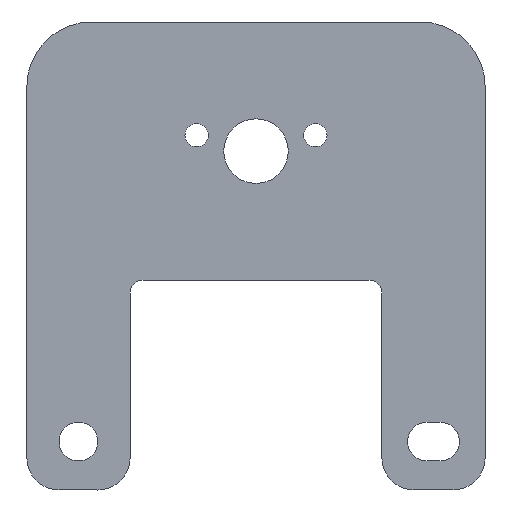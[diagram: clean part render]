
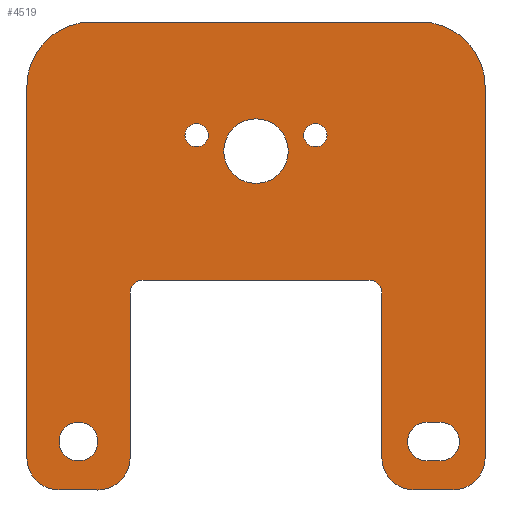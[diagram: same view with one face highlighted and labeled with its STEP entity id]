
A CAD part, front view. The second image highlights one B-rep face of the part: STEP entity #4519.
In plain terms, the highlighted planar face has unit normal (0, -1, 0).
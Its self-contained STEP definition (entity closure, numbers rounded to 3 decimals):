
#43=CIRCLE('',#4639,5.);
#44=CIRCLE('',#4641,1.8);
#45=CIRCLE('',#4643,3.);
#46=CIRCLE('',#4646,3.);
#47=CIRCLE('',#4649,3.);
#48=CIRCLE('',#4651,1.8);
#49=CIRCLE('',#4654,5.);
#50=CIRCLE('',#4657,5.);
#51=CIRCLE('',#4660,2.);
#52=CIRCLE('',#4663,2.);
#53=CIRCLE('',#4666,5.);
#54=CIRCLE('',#4669,5.);
#55=CIRCLE('',#4672,10.);
#56=CIRCLE('',#4675,10.);
#72=FACE_BOUND('',#664,.T.);
#73=FACE_BOUND('',#665,.T.);
#74=FACE_BOUND('',#666,.T.);
#75=FACE_BOUND('',#667,.T.);
#76=FACE_BOUND('',#668,.T.);
#178=PLANE('',#4677);
#413=FACE_OUTER_BOUND('',#663,.T.);
#663=EDGE_LOOP('',(#4142,#4143,#4144,#4145,#4146,#4147,#4148,#4149,#4150,
#4151,#4152,#4153,#4154,#4155,#4156,#4157));
#664=EDGE_LOOP('',(#4158));
#665=EDGE_LOOP('',(#4159,#4160,#4161,#4162));
#666=EDGE_LOOP('',(#4163));
#667=EDGE_LOOP('',(#4164));
#668=EDGE_LOOP('',(#4165));
#1041=LINE('',#8186,#1444);
#1045=LINE('',#8195,#1448);
#1048=LINE('',#8206,#1451);
#1052=LINE('',#8215,#1455);
#1055=LINE('',#8223,#1458);
#1058=LINE('',#8231,#1461);
#1061=LINE('',#8239,#1464);
#1064=LINE('',#8247,#1467);
#1067=LINE('',#8255,#1470);
#1070=LINE('',#8263,#1473);
#1444=VECTOR('',#5274,10.);
#1448=VECTOR('',#5284,10.);
#1451=VECTOR('',#5297,10.);
#1455=VECTOR('',#5307,10.);
#1458=VECTOR('',#5316,10.);
#1461=VECTOR('',#5325,10.);
#1464=VECTOR('',#5334,10.);
#1467=VECTOR('',#5343,10.);
#1470=VECTOR('',#5352,10.);
#1473=VECTOR('',#5361,10.);
#2135=VERTEX_POINT('',#8172);
#2136=VERTEX_POINT('',#8176);
#2137=VERTEX_POINT('',#8180);
#2138=VERTEX_POINT('',#8184);
#2139=VERTEX_POINT('',#8185);
#2140=VERTEX_POINT('',#8190);
#2141=VERTEX_POINT('',#8194);
#2142=VERTEX_POINT('',#8200);
#2143=VERTEX_POINT('',#8204);
#2144=VERTEX_POINT('',#8205);
#2145=VERTEX_POINT('',#8210);
#2146=VERTEX_POINT('',#8214);
#2147=VERTEX_POINT('',#8218);
#2148=VERTEX_POINT('',#8222);
#2149=VERTEX_POINT('',#8226);
#2150=VERTEX_POINT('',#8230);
#2151=VERTEX_POINT('',#8234);
#2152=VERTEX_POINT('',#8238);
#2153=VERTEX_POINT('',#8242);
#2154=VERTEX_POINT('',#8246);
#2155=VERTEX_POINT('',#8250);
#2156=VERTEX_POINT('',#8254);
#2157=VERTEX_POINT('',#8258);
#2158=VERTEX_POINT('',#8262);
#2781=EDGE_CURVE('',#2135,#2135,#43,.T.);
#2783=EDGE_CURVE('',#2136,#2136,#44,.T.);
#2785=EDGE_CURVE('',#2137,#2137,#45,.T.);
#2786=EDGE_CURVE('',#2138,#2139,#1041,.T.);
#2789=EDGE_CURVE('',#2140,#2138,#46,.T.);
#2791=EDGE_CURVE('',#2141,#2140,#1045,.T.);
#2793=EDGE_CURVE('',#2139,#2141,#47,.T.);
#2795=EDGE_CURVE('',#2142,#2142,#48,.T.);
#2796=EDGE_CURVE('',#2143,#2144,#1048,.T.);
#2799=EDGE_CURVE('',#2145,#2144,#49,.T.);
#2801=EDGE_CURVE('',#2145,#2146,#1052,.T.);
#2803=EDGE_CURVE('',#2147,#2146,#50,.T.);
#2805=EDGE_CURVE('',#2147,#2148,#1055,.T.);
#2807=EDGE_CURVE('',#2148,#2149,#51,.T.);
#2809=EDGE_CURVE('',#2149,#2150,#1058,.T.);
#2811=EDGE_CURVE('',#2150,#2151,#52,.T.);
#2813=EDGE_CURVE('',#2151,#2152,#1061,.T.);
#2815=EDGE_CURVE('',#2153,#2152,#53,.T.);
#2817=EDGE_CURVE('',#2153,#2154,#1064,.T.);
#2819=EDGE_CURVE('',#2155,#2154,#54,.T.);
#2821=EDGE_CURVE('',#2156,#2155,#1067,.T.);
#2823=EDGE_CURVE('',#2157,#2156,#55,.T.);
#2825=EDGE_CURVE('',#2158,#2157,#1070,.T.);
#2827=EDGE_CURVE('',#2143,#2158,#56,.T.);
#4142=ORIENTED_EDGE('',*,*,#2827,.F.);
#4143=ORIENTED_EDGE('',*,*,#2796,.T.);
#4144=ORIENTED_EDGE('',*,*,#2799,.F.);
#4145=ORIENTED_EDGE('',*,*,#2801,.T.);
#4146=ORIENTED_EDGE('',*,*,#2803,.F.);
#4147=ORIENTED_EDGE('',*,*,#2805,.T.);
#4148=ORIENTED_EDGE('',*,*,#2807,.T.);
#4149=ORIENTED_EDGE('',*,*,#2809,.T.);
#4150=ORIENTED_EDGE('',*,*,#2811,.T.);
#4151=ORIENTED_EDGE('',*,*,#2813,.T.);
#4152=ORIENTED_EDGE('',*,*,#2815,.F.);
#4153=ORIENTED_EDGE('',*,*,#2817,.T.);
#4154=ORIENTED_EDGE('',*,*,#2819,.F.);
#4155=ORIENTED_EDGE('',*,*,#2821,.F.);
#4156=ORIENTED_EDGE('',*,*,#2823,.F.);
#4157=ORIENTED_EDGE('',*,*,#2825,.F.);
#4158=ORIENTED_EDGE('',*,*,#2795,.F.);
#4159=ORIENTED_EDGE('',*,*,#2793,.F.);
#4160=ORIENTED_EDGE('',*,*,#2786,.F.);
#4161=ORIENTED_EDGE('',*,*,#2789,.F.);
#4162=ORIENTED_EDGE('',*,*,#2791,.F.);
#4163=ORIENTED_EDGE('',*,*,#2785,.F.);
#4164=ORIENTED_EDGE('',*,*,#2783,.F.);
#4165=ORIENTED_EDGE('',*,*,#2781,.F.);
#4519=ADVANCED_FACE('',(#413,#72,#73,#74,#75,#76),#178,.F.);
#4639=AXIS2_PLACEMENT_3D('',#8174,#5260,#5261);
#4641=AXIS2_PLACEMENT_3D('',#8178,#5265,#5266);
#4643=AXIS2_PLACEMENT_3D('',#8182,#5270,#5271);
#4646=AXIS2_PLACEMENT_3D('',#8191,#5279,#5280);
#4649=AXIS2_PLACEMENT_3D('',#8198,#5288,#5289);
#4651=AXIS2_PLACEMENT_3D('',#8202,#5293,#5294);
#4654=AXIS2_PLACEMENT_3D('',#8211,#5302,#5303);
#4657=AXIS2_PLACEMENT_3D('',#8219,#5311,#5312);
#4660=AXIS2_PLACEMENT_3D('',#8227,#5320,#5321);
#4663=AXIS2_PLACEMENT_3D('',#8235,#5329,#5330);
#4666=AXIS2_PLACEMENT_3D('',#8243,#5338,#5339);
#4669=AXIS2_PLACEMENT_3D('',#8251,#5347,#5348);
#4672=AXIS2_PLACEMENT_3D('',#8259,#5356,#5357);
#4675=AXIS2_PLACEMENT_3D('',#8266,#5365,#5366);
#4677=AXIS2_PLACEMENT_3D('',#8268,#5369,#5370);
#5260=DIRECTION('center_axis',(0.,-1.,0.));
#5261=DIRECTION('ref_axis',(1.,0.,0.));
#5265=DIRECTION('center_axis',(0.,-1.,0.));
#5266=DIRECTION('ref_axis',(1.,0.,0.));
#5270=DIRECTION('center_axis',(0.,-1.,0.));
#5271=DIRECTION('ref_axis',(1.,0.,0.));
#5274=DIRECTION('',(1.,0.,0.));
#5279=DIRECTION('center_axis',(0.,-1.,0.));
#5280=DIRECTION('ref_axis',(1.,0.,0.));
#5284=DIRECTION('',(-1.,0.,0.));
#5288=DIRECTION('center_axis',(0.,-1.,0.));
#5289=DIRECTION('ref_axis',(1.,0.,0.));
#5293=DIRECTION('center_axis',(0.,-1.,0.));
#5294=DIRECTION('ref_axis',(1.,0.,0.));
#5297=DIRECTION('',(0.,0.,-1.));
#5302=DIRECTION('center_axis',(0.,1.,0.));
#5303=DIRECTION('ref_axis',(0.,0.,-1.));
#5307=DIRECTION('',(1.,0.,0.));
#5311=DIRECTION('center_axis',(0.,1.,0.));
#5312=DIRECTION('ref_axis',(1.,0.,0.));
#5316=DIRECTION('',(0.,0.,1.));
#5320=DIRECTION('center_axis',(0.,1.,0.));
#5321=DIRECTION('ref_axis',(-1.,0.,0.));
#5325=DIRECTION('',(1.,0.,0.));
#5329=DIRECTION('center_axis',(0.,1.,0.));
#5330=DIRECTION('ref_axis',(0.,0.,1.));
#5334=DIRECTION('',(0.,0.,-1.));
#5338=DIRECTION('center_axis',(0.,1.,0.));
#5339=DIRECTION('ref_axis',(0.,0.,-1.));
#5343=DIRECTION('',(1.,0.,0.));
#5347=DIRECTION('center_axis',(0.,1.,0.));
#5348=DIRECTION('ref_axis',(1.,0.,0.));
#5352=DIRECTION('',(0.,0.,-1.));
#5356=DIRECTION('center_axis',(0.,1.,0.));
#5357=DIRECTION('ref_axis',(0.,0.,1.));
#5361=DIRECTION('',(1.,0.,0.));
#5365=DIRECTION('center_axis',(0.,1.,0.));
#5366=DIRECTION('ref_axis',(-1.,0.,0.));
#5369=DIRECTION('center_axis',(0.,1.,0.));
#5370=DIRECTION('ref_axis',(1.,0.,0.));
#8172=CARTESIAN_POINT('',(30.5,0.,-20.));
#8174=CARTESIAN_POINT('Origin',(35.5,0.,-20.));
#8176=CARTESIAN_POINT('',(42.905,0.,-17.533));
#8178=CARTESIAN_POINT('Origin',(44.705,0.,-17.533));
#8180=CARTESIAN_POINT('',(5.,0.,-65.));
#8182=CARTESIAN_POINT('Origin',(8.,0.,-65.));
#8184=CARTESIAN_POINT('',(62.,0.,-68.));
#8185=CARTESIAN_POINT('',(64.,0.,-68.));
#8186=CARTESIAN_POINT('',(63.,0.,-68.));
#8190=CARTESIAN_POINT('',(62.,0.,-62.));
#8191=CARTESIAN_POINT('Origin',(62.,0.,-65.));
#8194=CARTESIAN_POINT('',(64.,0.,-62.));
#8195=CARTESIAN_POINT('',(63.,0.,-62.));
#8198=CARTESIAN_POINT('Origin',(64.,0.,-65.));
#8200=CARTESIAN_POINT('',(24.495,0.,-17.533));
#8202=CARTESIAN_POINT('Origin',(26.295,0.,-17.533));
#8204=CARTESIAN_POINT('',(0.,0.,-10.));
#8205=CARTESIAN_POINT('',(0.,0.,-67.5));
#8206=CARTESIAN_POINT('',(0.,0.,-10.));
#8210=CARTESIAN_POINT('',(5.,0.,-72.5));
#8211=CARTESIAN_POINT('Origin',(5.,0.,-67.5));
#8214=CARTESIAN_POINT('',(11.,0.,-72.5));
#8215=CARTESIAN_POINT('',(5.,0.,-72.5));
#8218=CARTESIAN_POINT('',(16.,0.,-67.5));
#8219=CARTESIAN_POINT('Origin',(11.,0.,-67.5));
#8222=CARTESIAN_POINT('',(16.,0.,-42.));
#8223=CARTESIAN_POINT('',(16.,0.,-67.5));
#8226=CARTESIAN_POINT('',(18.,0.,-40.));
#8227=CARTESIAN_POINT('Origin',(18.,0.,-42.));
#8230=CARTESIAN_POINT('',(53.,0.,-40.));
#8231=CARTESIAN_POINT('',(18.,0.,-40.));
#8234=CARTESIAN_POINT('',(55.,0.,-42.));
#8235=CARTESIAN_POINT('Origin',(53.,0.,-42.));
#8238=CARTESIAN_POINT('',(55.,0.,-67.5));
#8239=CARTESIAN_POINT('',(55.,0.,-42.));
#8242=CARTESIAN_POINT('',(60.,0.,-72.5));
#8243=CARTESIAN_POINT('Origin',(60.,0.,-67.5));
#8246=CARTESIAN_POINT('',(66.,0.,-72.5));
#8247=CARTESIAN_POINT('',(60.,0.,-72.5));
#8250=CARTESIAN_POINT('',(71.,0.,-67.5));
#8251=CARTESIAN_POINT('Origin',(66.,0.,-67.5));
#8254=CARTESIAN_POINT('',(71.,0.,-10.));
#8255=CARTESIAN_POINT('',(71.,0.,-10.));
#8258=CARTESIAN_POINT('',(61.,0.,0.));
#8259=CARTESIAN_POINT('Origin',(61.,0.,-10.));
#8262=CARTESIAN_POINT('',(10.,0.,0.));
#8263=CARTESIAN_POINT('',(10.,0.,0.));
#8266=CARTESIAN_POINT('Origin',(10.,0.,-10.));
#8268=CARTESIAN_POINT('Origin',(35.5,0.,-36.25));
